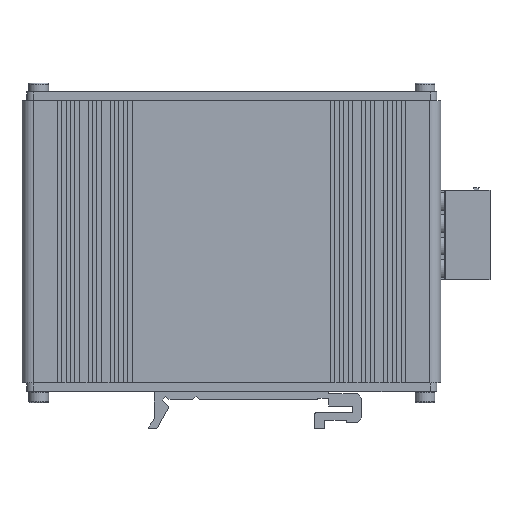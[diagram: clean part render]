
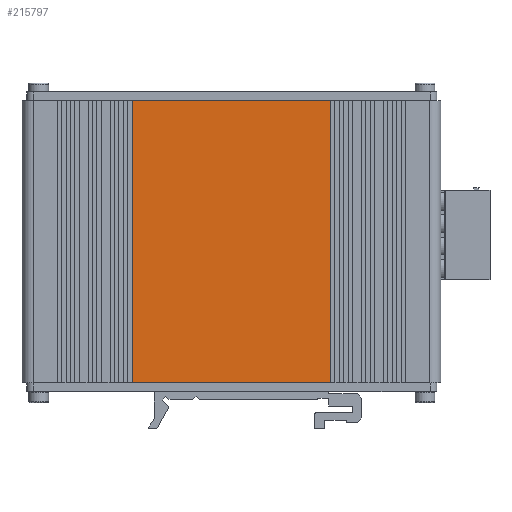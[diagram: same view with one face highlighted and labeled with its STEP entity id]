
A CAD part, left-side view. The second image highlights one B-rep face of the part: STEP entity #215797.
In plain terms, the highlighted planar face has unit normal (-1, 0, 0).
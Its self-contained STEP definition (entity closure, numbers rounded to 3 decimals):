
#207765 = PLANE('',#207766);
#207766 = AXIS2_PLACEMENT_3D('',#207767,#207768,#207769);
#207767 = CARTESIAN_POINT('',(1.112,23.274,64.5));
#207768 = DIRECTION('',(0.,0.,1.));
#207769 = DIRECTION('',(1.,0.,0.));
#207819 = PLANE('',#207820);
#207820 = AXIS2_PLACEMENT_3D('',#207821,#207822,#207823);
#207821 = CARTESIAN_POINT('',(1.112,23.274,0.5));
#207822 = DIRECTION('',(0.,0.,1.));
#207823 = DIRECTION('',(1.,0.,0.));
#208994 = VERTEX_POINT('',#208995);
#208995 = CARTESIAN_POINT('',(-13.884,45.79,0.5));
#209009 = PLANE('',#209010);
#209010 = AXIS2_PLACEMENT_3D('',#209011,#209012,#209013);
#209011 = CARTESIAN_POINT('',(-12.884,45.79,0.5));
#209012 = DIRECTION('',(0.,-1.,0.));
#209013 = DIRECTION('',(-1.,0.,0.));
#209021 = EDGE_CURVE('',#209022,#208994,#209024,.T.);
#209022 = VERTEX_POINT('',#209023);
#209023 = CARTESIAN_POINT('',(-13.884,0.79,0.5));
#209024 = SURFACE_CURVE('',#209025,(#209029,#209036),.PCURVE_S1.);
#209025 = LINE('',#209026,#209027);
#209026 = CARTESIAN_POINT('',(-13.884,0.79,0.5));
#209027 = VECTOR('',#209028,1.);
#209028 = DIRECTION('',(0.,1.,0.));
#209029 = PCURVE('',#207819,#209030);
#209030 = DEFINITIONAL_REPRESENTATION('',(#209031),#209035);
#209031 = LINE('',#209032,#209033);
#209032 = CARTESIAN_POINT('',(-14.996,-22.484));
#209033 = VECTOR('',#209034,1.);
#209034 = DIRECTION('',(0.,1.));
#209035 = ( GEOMETRIC_REPRESENTATION_CONTEXT(2) 
PARAMETRIC_REPRESENTATION_CONTEXT() REPRESENTATION_CONTEXT('2D SPACE',''
  ) );
#209036 = PCURVE('',#209037,#209042);
#209037 = PLANE('',#209038);
#209038 = AXIS2_PLACEMENT_3D('',#209039,#209040,#209041);
#209039 = CARTESIAN_POINT('',(-13.884,0.79,0.5));
#209040 = DIRECTION('',(-1.,0.,0.));
#209041 = DIRECTION('',(0.,1.,0.));
#209042 = DEFINITIONAL_REPRESENTATION('',(#209043),#209047);
#209043 = LINE('',#209044,#209045);
#209044 = CARTESIAN_POINT('',(0.,0.));
#209045 = VECTOR('',#209046,1.);
#209046 = DIRECTION('',(1.,0.));
#209047 = ( GEOMETRIC_REPRESENTATION_CONTEXT(2) 
PARAMETRIC_REPRESENTATION_CONTEXT() REPRESENTATION_CONTEXT('2D SPACE',''
  ) );
#209065 = PLANE('',#209066);
#209066 = AXIS2_PLACEMENT_3D('',#209067,#209068,#209069);
#209067 = CARTESIAN_POINT('',(-13.884,0.79,0.5));
#209068 = DIRECTION('',(0.,1.,0.));
#209069 = DIRECTION('',(1.,0.,0.));
#212541 = VERTEX_POINT('',#212542);
#212542 = CARTESIAN_POINT('',(-13.884,45.79,64.5));
#212563 = EDGE_CURVE('',#212564,#212541,#212566,.T.);
#212564 = VERTEX_POINT('',#212565);
#212565 = CARTESIAN_POINT('',(-13.884,0.79,64.5));
#212566 = SURFACE_CURVE('',#212567,(#212571,#212578),.PCURVE_S1.);
#212567 = LINE('',#212568,#212569);
#212568 = CARTESIAN_POINT('',(-13.884,0.79,64.5));
#212569 = VECTOR('',#212570,1.);
#212570 = DIRECTION('',(0.,1.,0.));
#212571 = PCURVE('',#207765,#212572);
#212572 = DEFINITIONAL_REPRESENTATION('',(#212573),#212577);
#212573 = LINE('',#212574,#212575);
#212574 = CARTESIAN_POINT('',(-14.996,-22.484));
#212575 = VECTOR('',#212576,1.);
#212576 = DIRECTION('',(0.,1.));
#212577 = ( GEOMETRIC_REPRESENTATION_CONTEXT(2) 
PARAMETRIC_REPRESENTATION_CONTEXT() REPRESENTATION_CONTEXT('2D SPACE',''
  ) );
#212578 = PCURVE('',#209037,#212579);
#212579 = DEFINITIONAL_REPRESENTATION('',(#212580),#212584);
#212580 = LINE('',#212581,#212582);
#212581 = CARTESIAN_POINT('',(0.,-64.));
#212582 = VECTOR('',#212583,1.);
#212583 = DIRECTION('',(1.,0.));
#212584 = ( GEOMETRIC_REPRESENTATION_CONTEXT(2) 
PARAMETRIC_REPRESENTATION_CONTEXT() REPRESENTATION_CONTEXT('2D SPACE',''
  ) );
#215776 = EDGE_CURVE('',#208994,#212541,#215777,.T.);
#215777 = SURFACE_CURVE('',#215778,(#215782,#215789),.PCURVE_S1.);
#215778 = LINE('',#215779,#215780);
#215779 = CARTESIAN_POINT('',(-13.884,45.79,0.5));
#215780 = VECTOR('',#215781,1.);
#215781 = DIRECTION('',(0.,0.,1.));
#215782 = PCURVE('',#209009,#215783);
#215783 = DEFINITIONAL_REPRESENTATION('',(#215784),#215788);
#215784 = LINE('',#215785,#215786);
#215785 = CARTESIAN_POINT('',(1.,0.));
#215786 = VECTOR('',#215787,1.);
#215787 = DIRECTION('',(0.,-1.));
#215788 = ( GEOMETRIC_REPRESENTATION_CONTEXT(2) 
PARAMETRIC_REPRESENTATION_CONTEXT() REPRESENTATION_CONTEXT('2D SPACE',''
  ) );
#215789 = PCURVE('',#209037,#215790);
#215790 = DEFINITIONAL_REPRESENTATION('',(#215791),#215795);
#215791 = LINE('',#215792,#215793);
#215792 = CARTESIAN_POINT('',(45.,0.));
#215793 = VECTOR('',#215794,1.);
#215794 = DIRECTION('',(0.,-1.));
#215795 = ( GEOMETRIC_REPRESENTATION_CONTEXT(2) 
PARAMETRIC_REPRESENTATION_CONTEXT() REPRESENTATION_CONTEXT('2D SPACE',''
  ) );
#215797 = ADVANCED_FACE('',(#215798),#209037,.T.);
#215798 = FACE_BOUND('',#215799,.T.);
#215799 = EDGE_LOOP('',(#215800,#215821,#215822,#215823));
#215800 = ORIENTED_EDGE('',*,*,#215801,.T.);
#215801 = EDGE_CURVE('',#209022,#212564,#215802,.T.);
#215802 = SURFACE_CURVE('',#215803,(#215807,#215814),.PCURVE_S1.);
#215803 = LINE('',#215804,#215805);
#215804 = CARTESIAN_POINT('',(-13.884,0.79,0.5));
#215805 = VECTOR('',#215806,1.);
#215806 = DIRECTION('',(0.,0.,1.));
#215807 = PCURVE('',#209037,#215808);
#215808 = DEFINITIONAL_REPRESENTATION('',(#215809),#215813);
#215809 = LINE('',#215810,#215811);
#215810 = CARTESIAN_POINT('',(0.,0.));
#215811 = VECTOR('',#215812,1.);
#215812 = DIRECTION('',(0.,-1.));
#215813 = ( GEOMETRIC_REPRESENTATION_CONTEXT(2) 
PARAMETRIC_REPRESENTATION_CONTEXT() REPRESENTATION_CONTEXT('2D SPACE',''
  ) );
#215814 = PCURVE('',#209065,#215815);
#215815 = DEFINITIONAL_REPRESENTATION('',(#215816),#215820);
#215816 = LINE('',#215817,#215818);
#215817 = CARTESIAN_POINT('',(0.,0.));
#215818 = VECTOR('',#215819,1.);
#215819 = DIRECTION('',(0.,-1.));
#215820 = ( GEOMETRIC_REPRESENTATION_CONTEXT(2) 
PARAMETRIC_REPRESENTATION_CONTEXT() REPRESENTATION_CONTEXT('2D SPACE',''
  ) );
#215821 = ORIENTED_EDGE('',*,*,#212563,.T.);
#215822 = ORIENTED_EDGE('',*,*,#215776,.F.);
#215823 = ORIENTED_EDGE('',*,*,#209021,.F.);
